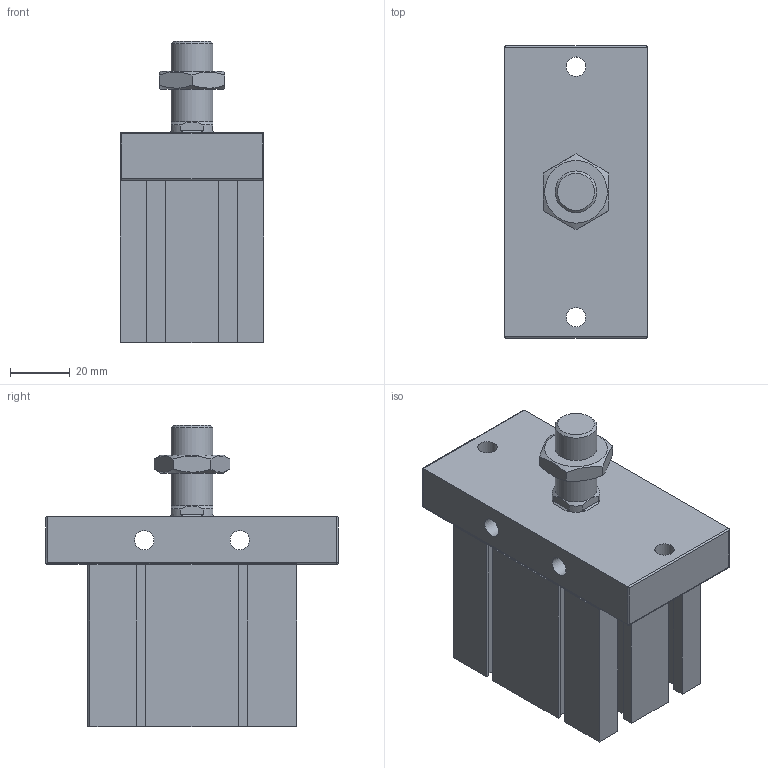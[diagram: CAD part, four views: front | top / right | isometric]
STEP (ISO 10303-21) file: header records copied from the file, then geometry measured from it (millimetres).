
FILE_DESCRIPTION((''),'2;1');
FILE_NAME('J:\3D電子目錄\氣缸\ND\ND\ND40-FB\ND40x20-FB.stp','2008-03-13T09:18:51',('66-2f-008'),(''),'Autodesk Inventor 11','Autodesk Inventor 11','');
FILE_SCHEMA(('AUTOMOTIVE_DESIGN { 1 0 10303 214 1 1 1 1 }'));
Length unit declared in the file: millimetre
Products named in the file (1): ND40-FB
Bounding box: 48 x 98 x 101 mm (x, y, z)
Volume: 236337.9 mm3; surface area: 41165.3 mm2
Topology: 2 solids, 2 shells, 153 faces, 391 edges, 251 vertices
Faces by surface type: plane 99, cylinder 23, cone 14, bspline 14, sphere 2, torus 1
Full cylindrical faces by diameter (mm): 2.2 x2, 6.5 x2, 14 x2, 29 x1, 42 x1, 44.5 x1
Entity records: 4520 total; most frequent: CARTESIAN_POINT 976, ORIENTED_EDGE 708, DIRECTION 698, EDGE_CURVE 354, VECTOR 250, LINE 250, VERTEX_POINT 246, AXIS2_PLACEMENT_3D 224
